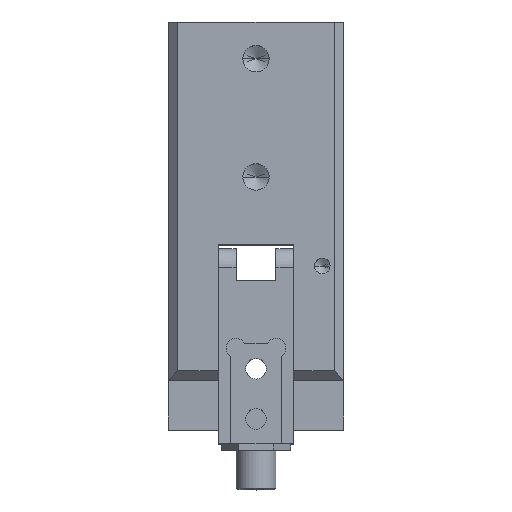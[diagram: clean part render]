
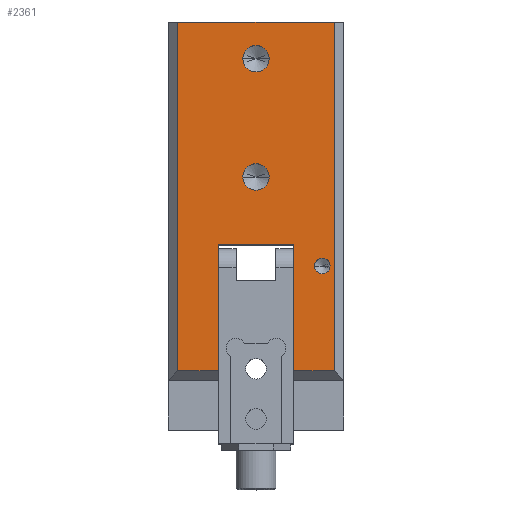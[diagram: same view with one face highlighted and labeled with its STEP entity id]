
A CAD part, top view. The second image highlights one B-rep face of the part: STEP entity #2361.
In plain terms, the highlighted planar face has unit normal (0, 0, 1).
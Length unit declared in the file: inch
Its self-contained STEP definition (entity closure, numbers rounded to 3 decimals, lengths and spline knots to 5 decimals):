
#11 = DIRECTION ( 'NONE',  ( 1., 0., 0. ) ) ;
#58 = VERTEX_POINT ( 'NONE', #850 ) ;
#73 = VERTEX_POINT ( 'NONE', #1311 ) ;
#231 = ORIENTED_EDGE ( 'NONE', *, *, #1115, .F. ) ;
#307 = ORIENTED_EDGE ( 'NONE', *, *, #3808, .T. ) ;
#359 = LINE ( 'NONE', #5046, #5153 ) ;
#443 = DIRECTION ( 'NONE',  ( 0., 0., -1. ) ) ;
#559 = CARTESIAN_POINT ( 'NONE',  ( -0.2375, -0.275, 0.7675 ) ) ;
#586 = VERTEX_POINT ( 'NONE', #4502 ) ;
#619 = CARTESIAN_POINT ( 'NONE',  ( -0.2375, -1.065, 0.7675 ) ) ;
#682 = DIRECTION ( 'NONE',  ( 0., -1., 0. ) ) ;
#733 = CARTESIAN_POINT ( 'NONE',  ( -0.551, -1.065, 0.7675 ) ) ;
#765 = CARTESIAN_POINT ( 'NONE',  ( 0., 0.152, 0.7675 ) ) ;
#836 = VECTOR ( 'NONE', #1158, 39.37008 ) ;
#840 = CARTESIAN_POINT ( 'NONE',  ( 0.491, 1.125, 0.7675 ) ) ;
#841 = EDGE_CURVE ( 'NONE', #3552, #1896, #359, .T. ) ;
#850 = CARTESIAN_POINT ( 'NONE',  ( 0.2375, -0.275, 0.7675 ) ) ;
#884 = VERTEX_POINT ( 'NONE', #2658 ) ;
#897 = VECTOR ( 'NONE', #682, 39.37008 ) ;
#977 = LINE ( 'NONE', #559, #3145 ) ;
#1100 = ORIENTED_EDGE ( 'NONE', *, *, #5521, .F. ) ;
#1115 = EDGE_CURVE ( 'NONE', #3632, #4109, #3806, .T. ) ;
#1153 = CIRCLE ( 'NONE', #4713, 0.08268 ) ;
#1158 = DIRECTION ( 'NONE',  ( 0., -1., 0. ) ) ;
#1196 = DIRECTION ( 'NONE',  ( 0., 0., 1. ) ) ;
#1229 = DIRECTION ( 'NONE',  ( 1., 0., 0. ) ) ;
#1249 = ORIENTED_EDGE ( 'NONE', *, *, #3098, .F. ) ;
#1288 = CARTESIAN_POINT ( 'NONE',  ( 0.36679, -0.407, 0.7675 ) ) ;
#1311 = CARTESIAN_POINT ( 'NONE',  ( -0.08268, 0.895, 0.7675 ) ) ;
#1353 = CARTESIAN_POINT ( 'NONE',  ( 0., 0.152, 0.7675 ) ) ;
#1356 = DIRECTION ( 'NONE',  ( 1., 0., 0. ) ) ;
#1406 = FACE_BOUND ( 'NONE', #3756, .T. ) ;
#1435 = CARTESIAN_POINT ( 'NONE',  ( 0., 0.895, 0.7675 ) ) ;
#1494 = CARTESIAN_POINT ( 'NONE',  ( 0.46521, -0.407, 0.7675 ) ) ;
#1576 = CARTESIAN_POINT ( 'NONE',  ( -0.551, 1.125, 0.7675 ) ) ;
#1591 = ORIENTED_EDGE ( 'NONE', *, *, #3046, .F. ) ;
#1639 = EDGE_CURVE ( 'NONE', #3258, #2609, #4977, .T. ) ;
#1666 = ORIENTED_EDGE ( 'NONE', *, *, #3921, .F. ) ;
#1669 = LINE ( 'NONE', #733, #5260 ) ;
#1798 = DIRECTION ( 'NONE',  ( 1., 0., 0. ) ) ;
#1813 = ORIENTED_EDGE ( 'NONE', *, *, #841, .T. ) ;
#1896 = VERTEX_POINT ( 'NONE', #619 ) ;
#1903 = DIRECTION ( 'NONE',  ( 1., 0., 0. ) ) ;
#1966 = ORIENTED_EDGE ( 'NONE', *, *, #3724, .F. ) ;
#2061 = LINE ( 'NONE', #3904, #836 ) ;
#2077 = EDGE_CURVE ( 'NONE', #5104, #3552, #2061, .T. ) ;
#2210 = DIRECTION ( 'NONE',  ( 0., 1., 0. ) ) ;
#2352 = CARTESIAN_POINT ( 'NONE',  ( 0.491, -1.065, 0.7675 ) ) ;
#2361 = ADVANCED_FACE ( 'NONE', ( #1406, #4138, #2787, #2644 ), #6018, .F. ) ;
#2506 = VECTOR ( 'NONE', #2210, 39.37008 ) ;
#2508 = EDGE_CURVE ( 'NONE', #58, #4582, #977, .T. ) ;
#2609 = VERTEX_POINT ( 'NONE', #4803 ) ;
#2644 = FACE_OUTER_BOUND ( 'NONE', #5177, .T. ) ;
#2658 = CARTESIAN_POINT ( 'NONE',  ( -0.08268, 0.152, 0.7675 ) ) ;
#2787 = FACE_BOUND ( 'NONE', #2980, .T. ) ;
#2788 = DIRECTION ( 'NONE',  ( 0., 0., 1. ) ) ;
#2820 = CARTESIAN_POINT ( 'NONE',  ( 0.08268, 0.152, 0.7675 ) ) ;
#2841 = CIRCLE ( 'NONE', #4209, 0.08268 ) ;
#2874 = CIRCLE ( 'NONE', #5514, 0.08268 ) ;
#2980 = EDGE_LOOP ( 'NONE', ( #1249, #4954 ) ) ;
#3023 = VECTOR ( 'NONE', #4410, 39.37008 ) ;
#3027 = CARTESIAN_POINT ( 'NONE',  ( 0.416, -0.407, 0.7675 ) ) ;
#3029 = AXIS2_PLACEMENT_3D ( 'NONE', #3027, #3047, #3088 ) ;
#3046 = EDGE_CURVE ( 'NONE', #4109, #3632, #3625, .T. ) ;
#3047 = DIRECTION ( 'NONE',  ( 0., 0., 1. ) ) ;
#3088 = DIRECTION ( 'NONE',  ( 1., 0., 0. ) ) ;
#3098 = EDGE_CURVE ( 'NONE', #5606, #884, #5991, .T. ) ;
#3145 = VECTOR ( 'NONE', #3781, 39.37008 ) ;
#3258 = VERTEX_POINT ( 'NONE', #2352 ) ;
#3294 = CARTESIAN_POINT ( 'NONE',  ( -0.491, -1.065, 0.7675 ) ) ;
#3340 = CARTESIAN_POINT ( 'NONE',  ( -0.491, 1.125, 0.7675 ) ) ;
#3396 = VERTEX_POINT ( 'NONE', #5978 ) ;
#3403 = LINE ( 'NONE', #3442, #897 ) ;
#3428 = EDGE_CURVE ( 'NONE', #884, #5606, #2841, .T. ) ;
#3442 = CARTESIAN_POINT ( 'NONE',  ( -0.2375, -1.125, 0.7675 ) ) ;
#3552 = VERTEX_POINT ( 'NONE', #3294 ) ;
#3625 = CIRCLE ( 'NONE', #4133, 0.04921 ) ;
#3632 = VERTEX_POINT ( 'NONE', #1494 ) ;
#3661 = DIRECTION ( 'NONE',  ( -1., 0., 0. ) ) ;
#3724 = EDGE_CURVE ( 'NONE', #4582, #1896, #3403, .T. ) ;
#3756 = EDGE_LOOP ( 'NONE', ( #231, #1591 ) ) ;
#3781 = DIRECTION ( 'NONE',  ( -1., 0., 0. ) ) ;
#3806 = CIRCLE ( 'NONE', #3029, 0.04921 ) ;
#3808 = EDGE_CURVE ( 'NONE', #3396, #3258, #1669, .T. ) ;
#3838 = ORIENTED_EDGE ( 'NONE', *, *, #6026, .F. ) ;
#3864 = AXIS2_PLACEMENT_3D ( 'NONE', #4598, #443, #3661 ) ;
#3904 = CARTESIAN_POINT ( 'NONE',  ( -0.491, 1.125, 0.7675 ) ) ;
#3921 = EDGE_CURVE ( 'NONE', #5104, #2609, #5772, .T. ) ;
#3934 = CARTESIAN_POINT ( 'NONE',  ( 0.416, -0.407, 0.7675 ) ) ;
#3975 = DIRECTION ( 'NONE',  ( 0., 0., 1. ) ) ;
#3976 = ORIENTED_EDGE ( 'NONE', *, *, #1639, .T. ) ;
#4109 = VERTEX_POINT ( 'NONE', #1288 ) ;
#4133 = AXIS2_PLACEMENT_3D ( 'NONE', #3934, #1196, #4421 ) ;
#4138 = FACE_BOUND ( 'NONE', #4184, .T. ) ;
#4184 = EDGE_LOOP ( 'NONE', ( #4660, #1100 ) ) ;
#4209 = AXIS2_PLACEMENT_3D ( 'NONE', #1353, #4597, #1798 ) ;
#4219 = LINE ( 'NONE', #5830, #3023 ) ;
#4316 = EDGE_CURVE ( 'NONE', #586, #73, #1153, .T. ) ;
#4410 = DIRECTION ( 'NONE',  ( 0., 1., 0. ) ) ;
#4421 = DIRECTION ( 'NONE',  ( 1., 0., 0. ) ) ;
#4502 = CARTESIAN_POINT ( 'NONE',  ( 0.08268, 0.895, 0.7675 ) ) ;
#4510 = VECTOR ( 'NONE', #5799, 39.37008 ) ;
#4582 = VERTEX_POINT ( 'NONE', #5832 ) ;
#4590 = ORIENTED_EDGE ( 'NONE', *, *, #2508, .F. ) ;
#4597 = DIRECTION ( 'NONE',  ( 0., 0., 1. ) ) ;
#4598 = CARTESIAN_POINT ( 'NONE',  ( -0.551, 1.125, 0.7675 ) ) ;
#4660 = ORIENTED_EDGE ( 'NONE', *, *, #4316, .F. ) ;
#4693 = DIRECTION ( 'NONE',  ( 0., 0., 1. ) ) ;
#4713 = AXIS2_PLACEMENT_3D ( 'NONE', #1435, #4693, #1903 ) ;
#4803 = CARTESIAN_POINT ( 'NONE',  ( 0.491, 1.125, 0.7675 ) ) ;
#4954 = ORIENTED_EDGE ( 'NONE', *, *, #3428, .F. ) ;
#4977 = LINE ( 'NONE', #840, #2506 ) ;
#5046 = CARTESIAN_POINT ( 'NONE',  ( -0.551, -1.065, 0.7675 ) ) ;
#5104 = VERTEX_POINT ( 'NONE', #3340 ) ;
#5153 = VECTOR ( 'NONE', #1356, 39.37008 ) ;
#5177 = EDGE_LOOP ( 'NONE', ( #3838, #307, #3976, #1666, #5408, #1813, #1966, #4590 ) ) ;
#5260 = VECTOR ( 'NONE', #5854, 39.37008 ) ;
#5408 = ORIENTED_EDGE ( 'NONE', *, *, #2077, .T. ) ;
#5430 = AXIS2_PLACEMENT_3D ( 'NONE', #765, #3975, #1229 ) ;
#5514 = AXIS2_PLACEMENT_3D ( 'NONE', #5584, #2788, #11 ) ;
#5521 = EDGE_CURVE ( 'NONE', #73, #586, #2874, .T. ) ;
#5584 = CARTESIAN_POINT ( 'NONE',  ( 0., 0.895, 0.7675 ) ) ;
#5606 = VERTEX_POINT ( 'NONE', #2820 ) ;
#5772 = LINE ( 'NONE', #1576, #4510 ) ;
#5799 = DIRECTION ( 'NONE',  ( 1., 0., 0. ) ) ;
#5830 = CARTESIAN_POINT ( 'NONE',  ( 0.2375, -1.125, 0.7675 ) ) ;
#5832 = CARTESIAN_POINT ( 'NONE',  ( -0.2375, -0.275, 0.7675 ) ) ;
#5854 = DIRECTION ( 'NONE',  ( 1., 0., 0. ) ) ;
#5978 = CARTESIAN_POINT ( 'NONE',  ( 0.2375, -1.065, 0.7675 ) ) ;
#5991 = CIRCLE ( 'NONE', #5430, 0.08268 ) ;
#6018 = PLANE ( 'NONE',  #3864 ) ;
#6026 = EDGE_CURVE ( 'NONE', #3396, #58, #4219, .T. ) ;
